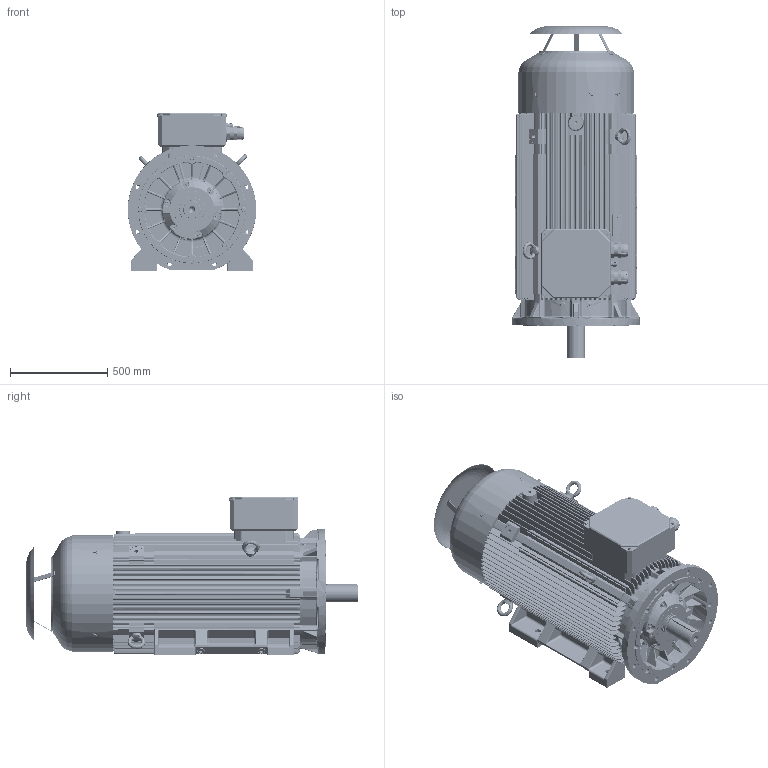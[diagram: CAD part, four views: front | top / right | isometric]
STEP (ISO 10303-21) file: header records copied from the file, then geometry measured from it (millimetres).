
FILE_DESCRIPTION(/* description */ ('Unknown'),/* implementation_level */ '2;1');
FILE_NAME(/* name */ '4SIEL315L4_6C',/* time_stamp */ '2023-05-10T13:22:21+02:00',/* author */ ('Unknown'),/* organization */ ('Unknown'),/* preprocessor_version */ 'ST-DEVELOPER v16.7',/* originating_system */ 'DEX',/* authorisation */ $);
FILE_SCHEMA (('AUTOMOTIVE_DESIGN {1 0 10303 214 3 1 1}'));
Products named in the file (1): 4SIEL315L4_6C
Bounding box: 660 x 1705.56 x 810.5 mm (x, y, z)
Volume: 163084133.5 mm3; surface area: 13839207.4 mm2
Topology: 2 solids, 31 shells, 9807 faces, 26639 edges, 16716 vertices
Faces by surface type: plane 5332, cylinder 2189, bspline 845, torus 772, cone 409, sphere 260
Full cylindrical faces by diameter (mm): 1.5 x2, 2.459 x7, 3.1 x4, 3.4 x4, 3.5 x2, 4 x1, 4.5 x1, 4.917 x4, 5 x2, 5.35 x2, 5.5 x3, 6.3 x2, 6.4 x2, 8 x4, 8.16 x8, 8.376 x6, 8.4 x3, 8.917 x1, 10 x24, 10.106 x12, 10.5 x4, 11 x6, 11.5 x1, 13.546 x9, 13.835 x2, 14 x6, 14.376 x20, 14.5 x2, 14.63 x8, 15 x1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
Entity records: 397124 total; most frequent: CARTESIAN_POINT 88076, ORIENTED_EDGE 50856, DIRECTION 46863, EDGE_CURVE 25428, VERTEX_POINT 16408, LINE 16051, VECTOR 16051, AXIS2_PLACEMENT_3D 15406
